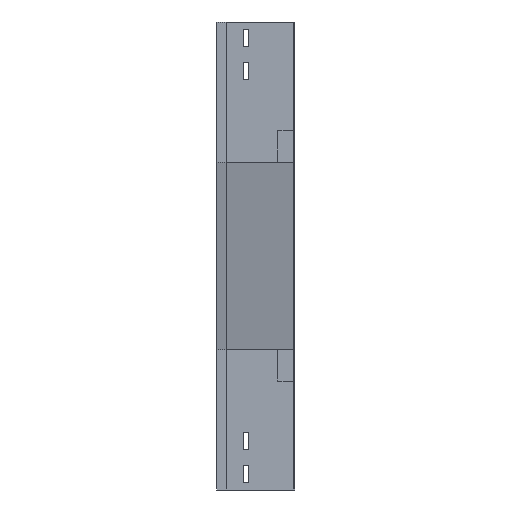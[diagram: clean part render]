
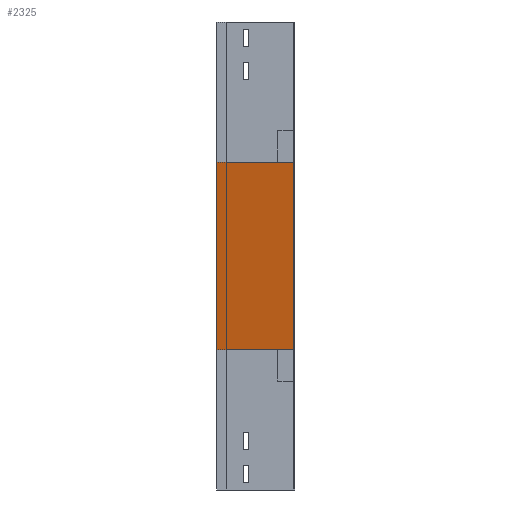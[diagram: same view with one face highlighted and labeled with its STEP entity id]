
A CAD part, left-side view. The second image highlights one B-rep face of the part: STEP entity #2325.
In plain terms, the highlighted planar face has unit normal (-0.979, 0, -0.204).
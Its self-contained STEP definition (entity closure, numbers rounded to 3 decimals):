
#464 = VECTOR ( 'NONE', #3466, 1000. ) ;
#785 = AXIS2_PLACEMENT_3D ( 'NONE', #3314, #3645, #887 ) ;
#867 = EDGE_CURVE ( 'NONE', #1135, #1341, #3078, .T. ) ;
#883 = VERTEX_POINT ( 'NONE', #1013 ) ;
#887 = DIRECTION ( 'NONE',  ( 0.204, 0., -0.979 ) ) ;
#915 = CARTESIAN_POINT ( 'NONE',  ( 0., 100., -180. ) ) ;
#1012 = ORIENTED_EDGE ( 'NONE', *, *, #2746, .T. ) ;
#1013 = CARTESIAN_POINT ( 'NONE',  ( 50., 0., -420. ) ) ;
#1056 = LINE ( 'NONE', #3456, #2693 ) ;
#1108 = EDGE_LOOP ( 'NONE', ( #1771, #1399, #1012, #2601 ) ) ;
#1135 = VERTEX_POINT ( 'NONE', #1804 ) ;
#1221 = LINE ( 'NONE', #915, #464 ) ;
#1314 = DIRECTION ( 'NONE',  ( 0., -1., 0. ) ) ;
#1341 = VERTEX_POINT ( 'NONE', #1377 ) ;
#1377 = CARTESIAN_POINT ( 'NONE',  ( 0., 0., -180. ) ) ;
#1399 = ORIENTED_EDGE ( 'NONE', *, *, #867, .F. ) ;
#1401 = CARTESIAN_POINT ( 'NONE',  ( 0., 0., -180. ) ) ;
#1407 = CARTESIAN_POINT ( 'NONE',  ( 50., 100., -420. ) ) ;
#1422 = DIRECTION ( 'NONE',  ( 0.204, 0., -0.979 ) ) ;
#1483 = VECTOR ( 'NONE', #1314, 1000. ) ;
#1771 = ORIENTED_EDGE ( 'NONE', *, *, #2159, .F. ) ;
#1803 = EDGE_CURVE ( 'NONE', #883, #3800, #1056, .T. ) ;
#1804 = CARTESIAN_POINT ( 'NONE',  ( 0., 100., -180. ) ) ;
#1826 = PLANE ( 'NONE',  #785 ) ;
#2085 = FACE_OUTER_BOUND ( 'NONE', #1108, .T. ) ;
#2159 = EDGE_CURVE ( 'NONE', #1341, #883, #3230, .T. ) ;
#2276 = DIRECTION ( 'NONE',  ( 0., 1., 0. ) ) ;
#2325 = ADVANCED_FACE ( 'NONE', ( #2085 ), #1826, .F. ) ;
#2384 = VECTOR ( 'NONE', #1422, 1000. ) ;
#2601 = ORIENTED_EDGE ( 'NONE', *, *, #1803, .F. ) ;
#2693 = VECTOR ( 'NONE', #2276, 1000. ) ;
#2746 = EDGE_CURVE ( 'NONE', #1135, #3800, #1221, .T. ) ;
#2812 = CARTESIAN_POINT ( 'NONE',  ( 0., 0., -180. ) ) ;
#3078 = LINE ( 'NONE', #2812, #1483 ) ;
#3230 = LINE ( 'NONE', #1401, #2384 ) ;
#3314 = CARTESIAN_POINT ( 'NONE',  ( 0., 0., -180. ) ) ;
#3456 = CARTESIAN_POINT ( 'NONE',  ( 50., 0., -420. ) ) ;
#3466 = DIRECTION ( 'NONE',  ( 0.204, 0., -0.979 ) ) ;
#3645 = DIRECTION ( 'NONE',  ( 0.979, 0., 0.204 ) ) ;
#3800 = VERTEX_POINT ( 'NONE', #1407 ) ;
